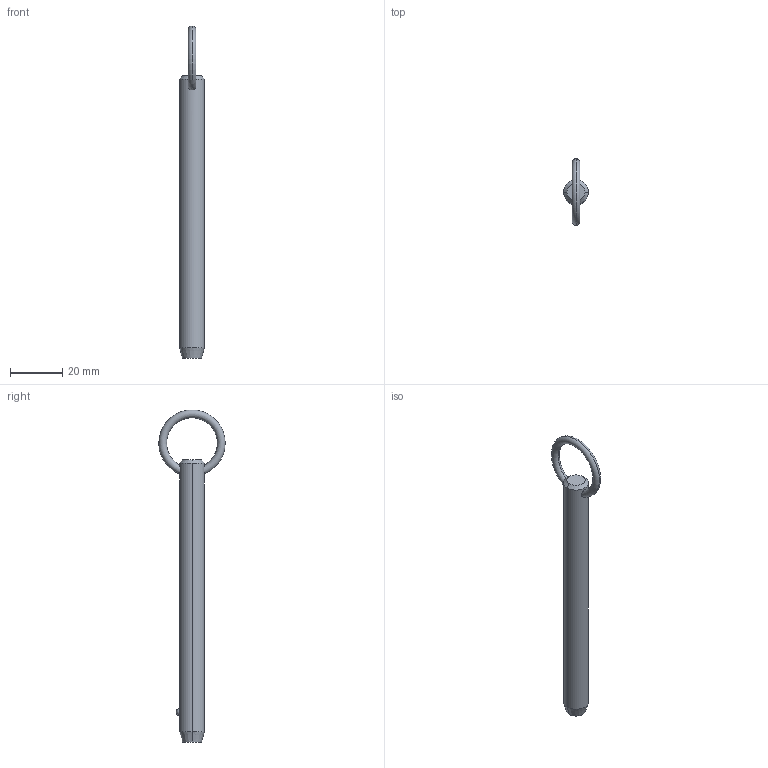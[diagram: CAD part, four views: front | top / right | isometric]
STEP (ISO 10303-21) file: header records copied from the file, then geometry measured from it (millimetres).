
FILE_DESCRIPTION (( 'STEP AP203' ), '1' );
FILE_NAME ('P1250.037-350.step', '2019-07-29T20:04:59', ( '' ), ( '' ), 'SwSTEP 2.0', 'SolidWorks 2017', '' );
FILE_SCHEMA (( 'CONFIG_CONTROL_DESIGN' ));
Length unit declared in the file: millimetre
Products named in the file (1): P1250.037-350
Bounding box: 9.52 x 25.39 x 127 mm (x, y, z)
Volume: 8035.1 mm3; surface area: 3870.8 mm2
Topology: 1 solids, 1 shells, 12 faces, 28 edges, 17 vertices
Faces by surface type: cone 4, torus 2, sphere 2, cylinder 2, plane 2
Entity records: 523 total; most frequent: CARTESIAN_POINT 190, DIRECTION 56, ORIENTED_EDGE 48, AXIS2_PLACEMENT_3D 25, EDGE_CURVE 24, VERTEX_POINT 15, EDGE_LOOP 15, FACE_OUTER_BOUND 12
